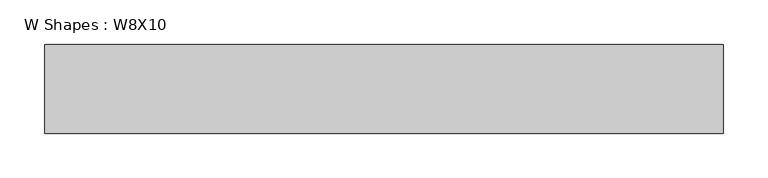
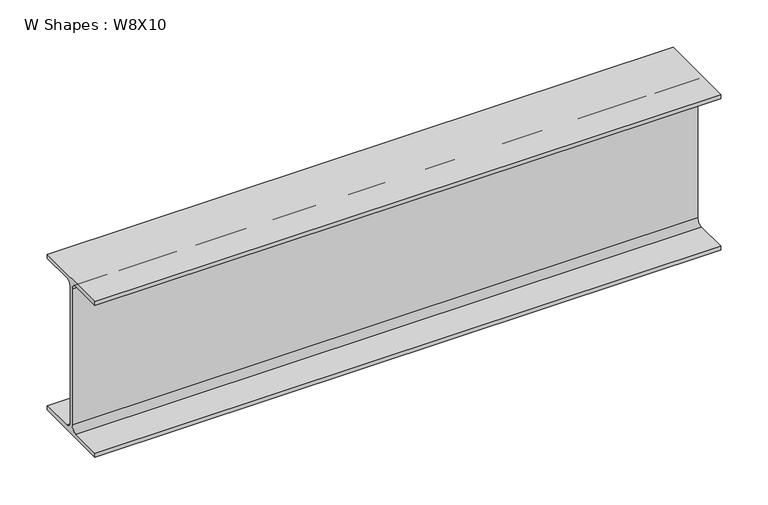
"""IFC4 building model written with IfcOpenShell, lengths in millimetres: beam geometry, W Shapes : W8X10."""

from ifc_helpers import new_model, si_unit, point, frame, frame_2d, origin, place, context, project, spatial, polyline, circle_curve, trimmed, segment, composite_curve, outline, extrude, source, transform, mapped, element, save


def w_shapes_w8x10_c1dda1f8(model_context):
    return source(origin(), model_context, "Body", "SweptSolid", [
        extrude(outline(composite_curve([segment(polyline([(50.038, -94.996), (50.038, -100.203), (-50.038, -100.203), (-50.038, -94.996), (-9.779, -94.996)]), True, "CONTINUOUS"), segment(trimmed(circle_curve(frame_2d((-9.779, -87.376)), 7.62), [point((-9.779, -94.996))], [point((-2.159, -87.376))], True, "CARTESIAN"), True, "CONTINUOUS"), segment(polyline([(-2.159, -87.376), (-2.159, 87.376)]), True, "CONTINUOUS"), segment(trimmed(circle_curve(frame_2d((-9.779, 87.376)), 7.62), [point((-2.159, 87.376))], [point((-9.779, 94.996))], True, "CARTESIAN"), True, "CONTINUOUS"), segment(polyline([(-9.779, 94.996), (-50.038, 94.996), (-50.038, 100.203), (50.038, 100.203), (50.038, 94.996), (9.779, 94.996)]), True, "CONTINUOUS"), segment(trimmed(circle_curve(frame_2d((9.779, 87.376)), 7.62), [point((9.779, 94.996))], [point((2.159, 87.376))], True, "CARTESIAN"), True, "CONTINUOUS"), segment(polyline([(2.159, 87.376), (2.159, -87.376)]), True, "CONTINUOUS"), segment(trimmed(circle_curve(frame_2d((9.779, -87.376)), 7.62), [point((2.159, -87.376))], [point((9.779, -94.996))], True, "CARTESIAN"), True, "CONTINUOUS"), segment(polyline([(9.779, -94.996), (50.038, -94.996)]), True, "CONTINUOUS")], self_intersect=False)), frame((-406.019, 0.0, 0.0), z_axis=(1.0, 0.0, 0.0), x_axis=(0.0, 1.0, 0.0)), (0.0, 0.0, 1.0), 761.238),
    ])


if __name__ == "__main__":
    model = new_model("IFC4")
    model_context = context("Model", 3, world=origin())
    ifc_project = project(units=[si_unit("LENGTHUNIT", "METRE", prefix="MILLI")], contexts=[model_context])
    site = spatial("IfcSite", under=ifc_project)
    building = spatial("IfcBuilding", under=site)
    placement = place(None, origin())
    w_shapes_w8x10_shape = w_shapes_w8x10_c1dda1f8(model_context)
    element("IfcBeam", 1, ObjectType="W Shapes : W8X10", at=placement, inside=building, context=model_context, shape_type="MappedRepresentation", body=[
        mapped(w_shapes_w8x10_shape, transform((0.0, 0.0, 0.0), x_axis=(1.0, 0.0, 0.0), y_axis=(0.0, 1.0, 0.0), z_axis=(0.0, 0.0, 1.0))),
    ])
    save(model, "model.ifc")
